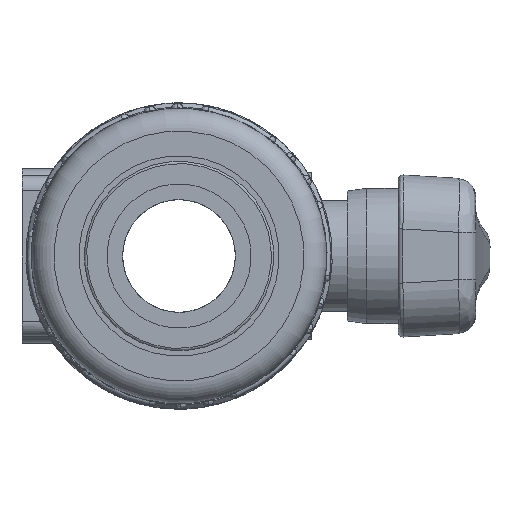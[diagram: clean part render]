
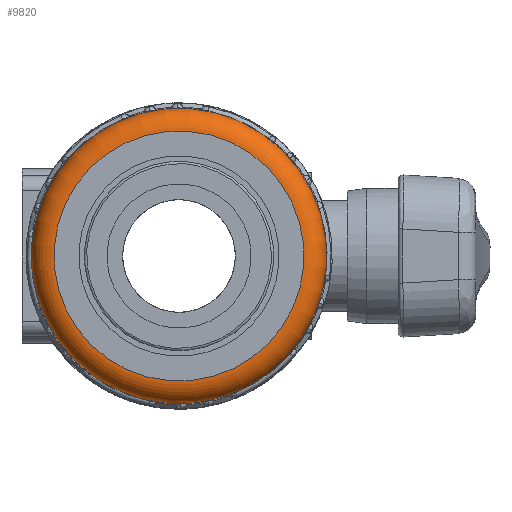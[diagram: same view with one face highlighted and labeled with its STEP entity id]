
A CAD part, front view. The second image highlights one B-rep face of the part: STEP entity #9820.
In plain terms, the highlighted toroidal (fillet/blend) face has major radius 27.75 mm and minor radius 5 mm.
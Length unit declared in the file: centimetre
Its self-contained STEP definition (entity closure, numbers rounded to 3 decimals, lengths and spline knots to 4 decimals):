
#1884=TOROIDAL_SURFACE('',#10511,2.775,0.5);
#1907=FACE_BOUND('',#2771,.T.);
#2181=FACE_OUTER_BOUND('',#2770,.T.);
#2770=EDGE_LOOP('',(#6975));
#2771=EDGE_LOOP('',(#6976));
#3389=CIRCLE('',#10509,2.775);
#3391=CIRCLE('',#10512,3.275);
#4021=VERTEX_POINT('',#37063);
#4023=VERTEX_POINT('',#37068);
#5130=EDGE_CURVE('',#4021,#4021,#3389,.T.);
#5132=EDGE_CURVE('',#4023,#4023,#3391,.T.);
#6975=ORIENTED_EDGE('',*,*,#5132,.F.);
#6976=ORIENTED_EDGE('',*,*,#5130,.T.);
#9820=ADVANCED_FACE('',(#2181,#1907),#1884,.T.);
#10509=AXIS2_PLACEMENT_3D('',#37064,#11952,#11953);
#10511=AXIS2_PLACEMENT_3D('',#37067,#11956,#11957);
#10512=AXIS2_PLACEMENT_3D('',#37069,#11958,#11959);
#11952=DIRECTION('center_axis',(0.,1.,0.));
#11953=DIRECTION('ref_axis',(-0.413,0.,-0.911));
#11956=DIRECTION('center_axis',(0.,1.,0.));
#11957=DIRECTION('ref_axis',(0.911,0.,-0.413));
#11958=DIRECTION('center_axis',(0.,1.,0.));
#11959=DIRECTION('ref_axis',(-0.413,0.,-0.911));
#37063=CARTESIAN_POINT('',(1.1461,-3.99,2.5273));
#37064=CARTESIAN_POINT('Origin',(0.,-3.99,0.));
#37067=CARTESIAN_POINT('Origin',(0.,-3.49,0.));
#37068=CARTESIAN_POINT('',(1.3526,-3.49,2.9826));
#37069=CARTESIAN_POINT('Origin',(0.,-3.49,0.));
